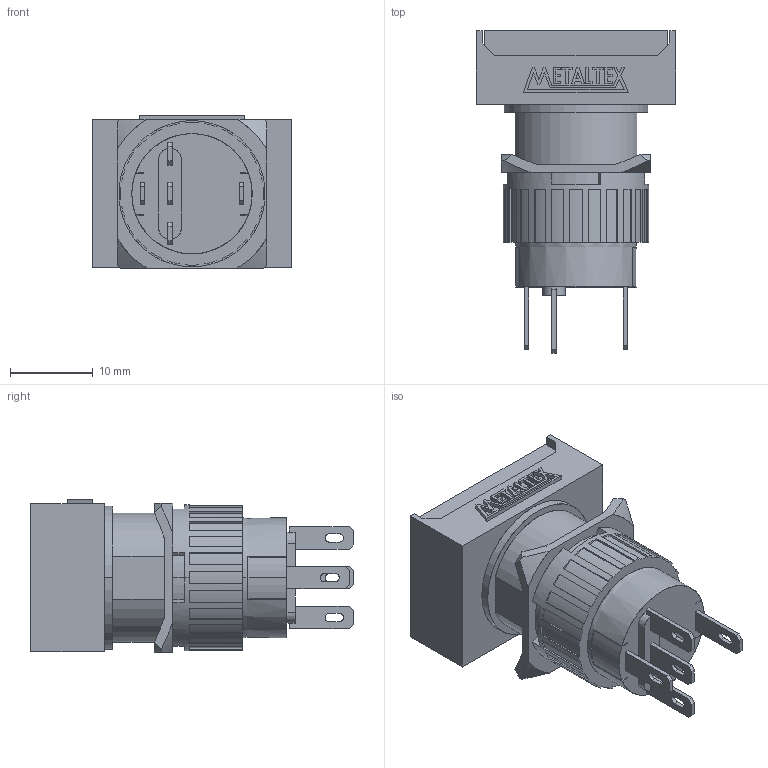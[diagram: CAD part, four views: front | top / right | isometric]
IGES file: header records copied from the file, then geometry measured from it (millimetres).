
Start section: SolidWorks IGES file using analytic representation for surfaces
Global section: file name: D:\X - Arquivos\PROEX\Empresas\P11 - METALTEX\01 - Produtos\IGES\Terceira remessa\Etapa 3\P16-IL.IGS; native system: SolidWorks 2012; preprocessor: SolidWorks 2012; author: Usuario; date: 180215.132322; units: millimetre
Bounding box: 24 x 38.9 x 18.43 mm (x, y, z)
Surface area: 4510.4 mm2 (no closed solid volume)
Topology: 0 solids, 0 shells, 352 faces, 2388 edges, 2388 vertices
Faces by surface type: bspline 280, revolution 72
